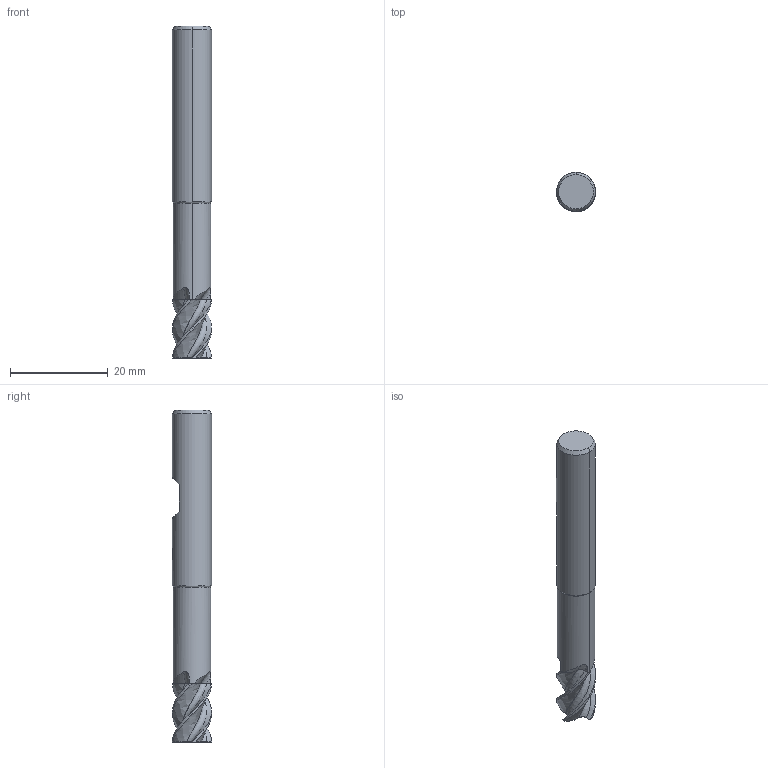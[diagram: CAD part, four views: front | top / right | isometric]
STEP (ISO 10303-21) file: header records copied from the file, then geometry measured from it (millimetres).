
FILE_DESCRIPTION(('no description'),'unknown implementation level');
FILE_NAME('solidixRRsY9YqOnM_cxpyKkxIhEGY74_1.STP',' ',('CIMSOURCE GmbH'),('CADClick - KiM GmbH - www.kimweb.de'),'unknown preprocess','ACIS','unknown authorization');
FILE_SCHEMA(('automotive_design'));
Length unit declared in the file: millimetre
Products named in the file (2): NOCUT; CUT
Bounding box: 8 x 8 x 68 mm (x, y, z)
Volume: 3003.5 mm3; surface area: 2161.4 mm2
Topology: 2 solids, 2 shells, 131 faces, 360 edges, 232 vertices
Faces by surface type: bspline 48, plane 35, cone 20, cylinder 16, revolution 12
Entity records: 22228 total; most frequent: CARTESIAN_POINT 15319, STYLED_ITEM 725, PRESENTATION_STYLE_ASSIGNMENT 725, COLOUR_RGB 725, ORIENTED_EDGE 720, DIRECTION 410, EDGE_CURVE 360, CURVE_STYLE 360
